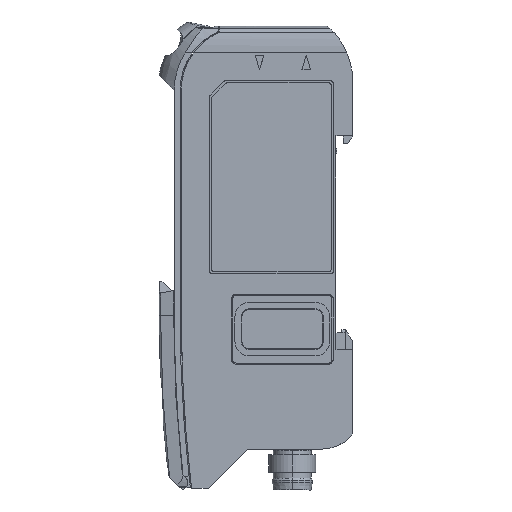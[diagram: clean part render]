
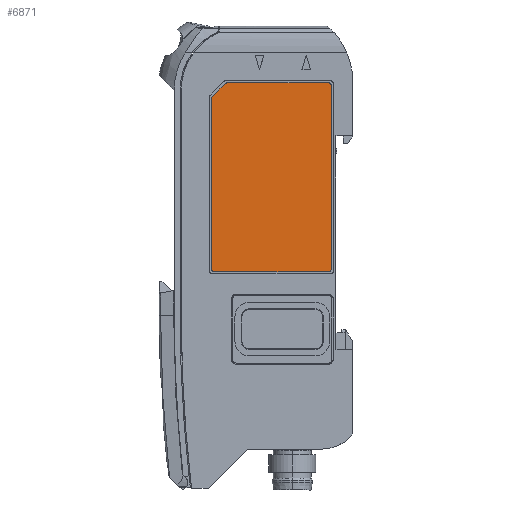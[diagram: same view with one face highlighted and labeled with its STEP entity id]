
A CAD part, left-side view. The second image highlights one B-rep face of the part: STEP entity #6871.
In plain terms, the highlighted planar face has unit normal (-1, 0, 0).
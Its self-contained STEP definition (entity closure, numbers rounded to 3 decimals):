
#315 = DIRECTION ( 'NONE',  ( 0., 0., 1. ) ) ;
#431 = VECTOR ( 'NONE', #17645, 1000. ) ;
#1067 = ORIENTED_EDGE ( 'NONE', *, *, #10451, .F. ) ;
#1258 = AXIS2_PLACEMENT_3D ( 'NONE', #10110, #23023, #13504 ) ;
#1876 = VERTEX_POINT ( 'NONE', #30959 ) ;
#2252 = DIRECTION ( 'NONE',  ( 1., 0., 0. ) ) ;
#3451 = LINE ( 'NONE', #39217, #29650 ) ;
#4851 = AXIS2_PLACEMENT_3D ( 'NONE', #38963, #23011, #35997 ) ;
#5183 = EDGE_CURVE ( 'NONE', #16761, #17562, #39019, .T. ) ;
#5900 = VERTEX_POINT ( 'NONE', #33243 ) ;
#6313 = EDGE_CURVE ( 'NONE', #11715, #9387, #26143, .T. ) ;
#6871 = ADVANCED_FACE ( 'NONE', ( #29623 ), #16257, .T. ) ;
#8096 = DIRECTION ( 'NONE',  ( 0., 0., -1. ) ) ;
#8237 = ORIENTED_EDGE ( 'NONE', *, *, #31973, .F. ) ;
#9387 = VERTEX_POINT ( 'NONE', #24160 ) ;
#10110 = CARTESIAN_POINT ( 'NONE',  ( -10.425, 23.703, -41.597 ) ) ;
#10451 = EDGE_CURVE ( 'NONE', #16761, #31383, #29864, .T. ) ;
#11459 = VERTEX_POINT ( 'NONE', #25951 ) ;
#11715 = VERTEX_POINT ( 'NONE', #32990 ) ;
#12169 = ORIENTED_EDGE ( 'NONE', *, *, #21134, .T. ) ;
#13035 = AXIS2_PLACEMENT_3D ( 'NONE', #27258, #26821, #39771 ) ;
#13101 = DIRECTION ( 'NONE',  ( 0., 0.707, -0.707 ) ) ;
#13128 = CARTESIAN_POINT ( 'NONE',  ( -10.425, 3.703, -41.597 ) ) ;
#13504 = DIRECTION ( 'NONE',  ( 0., 0., 1. ) ) ;
#13685 = CARTESIAN_POINT ( 'NONE',  ( -10.425, 24.057, -12.05 ) ) ;
#14465 = EDGE_CURVE ( 'NONE', #11459, #9387, #23056, .T. ) ;
#14495 = LINE ( 'NONE', #36158, #431 ) ;
#14649 = LINE ( 'NONE', #27614, #35835 ) ;
#14998 = DIRECTION ( 'NONE',  ( 0., 0., -1. ) ) ;
#15070 = CIRCLE ( 'NONE', #13035, 0.5 ) ;
#15665 = CARTESIAN_POINT ( 'NONE',  ( -10.425, 4.203, -41.597 ) ) ;
#15995 = DIRECTION ( 'NONE',  ( 1., 0., 0. ) ) ;
#16257 = PLANE ( 'NONE',  #1258 ) ;
#16464 = EDGE_CURVE ( 'NONE', #1876, #31383, #14495, .T. ) ;
#16761 = VERTEX_POINT ( 'NONE', #13128 ) ;
#16773 = CARTESIAN_POINT ( 'NONE',  ( -10.425, 4.203, -9.697 ) ) ;
#17562 = VERTEX_POINT ( 'NONE', #39946 ) ;
#17645 = DIRECTION ( 'NONE',  ( 0., -1., 0. ) ) ;
#18795 = AXIS2_PLACEMENT_3D ( 'NONE', #27761, #34309, #14998 ) ;
#19592 = CARTESIAN_POINT ( 'NONE',  ( -10.425, 24.203, -12.404 ) ) ;
#19732 = DIRECTION ( 'NONE',  ( 0., 1., 0. ) ) ;
#19804 = ORIENTED_EDGE ( 'NONE', *, *, #16464, .T. ) ;
#19821 = ORIENTED_EDGE ( 'NONE', *, *, #5183, .T. ) ;
#21134 = EDGE_CURVE ( 'NONE', #11459, #25191, #3451, .T. ) ;
#22240 = DIRECTION ( 'NONE',  ( 0., 0., -1. ) ) ;
#23011 = DIRECTION ( 'NONE',  ( 1., 0., 0. ) ) ;
#23023 = DIRECTION ( 'NONE',  ( -1., 0., 0. ) ) ;
#23056 = CIRCLE ( 'NONE', #4851, 0.5 ) ;
#24160 = CARTESIAN_POINT ( 'NONE',  ( -10.425, 21.496, -9.697 ) ) ;
#25191 = VERTEX_POINT ( 'NONE', #13685 ) ;
#25340 = ORIENTED_EDGE ( 'NONE', *, *, #26958, .F. ) ;
#25951 = CARTESIAN_POINT ( 'NONE',  ( -10.425, 21.85, -9.843 ) ) ;
#26143 = LINE ( 'NONE', #16773, #27522 ) ;
#26663 = EDGE_CURVE ( 'NONE', #28681, #5900, #14649, .T. ) ;
#26821 = DIRECTION ( 'NONE',  ( 1., 0., 0. ) ) ;
#26835 = AXIS2_PLACEMENT_3D ( 'NONE', #38294, #15995, #32307 ) ;
#26958 = EDGE_CURVE ( 'NONE', #1876, #5900, #37122, .T. ) ;
#27176 = ORIENTED_EDGE ( 'NONE', *, *, #14465, .F. ) ;
#27258 = CARTESIAN_POINT ( 'NONE',  ( -10.425, 4.203, -10.197 ) ) ;
#27522 = VECTOR ( 'NONE', #19732, 1000. ) ;
#27614 = CARTESIAN_POINT ( 'NONE',  ( -10.425, 24.203, -41.597 ) ) ;
#27761 = CARTESIAN_POINT ( 'NONE',  ( -10.425, 23.703, -41.597 ) ) ;
#28681 = VERTEX_POINT ( 'NONE', #19592 ) ;
#29623 = FACE_OUTER_BOUND ( 'NONE', #29662, .T. ) ;
#29650 = VECTOR ( 'NONE', #13101, 1000. ) ;
#29658 = CARTESIAN_POINT ( 'NONE',  ( -10.425, 3.703, -41.597 ) ) ;
#29662 = EDGE_LOOP ( 'NONE', ( #37196, #25340, #19804, #1067, #19821, #39036, #30106, #27176, #12169, #8237 ) ) ;
#29864 = CIRCLE ( 'NONE', #38724, 0.5 ) ;
#30106 = ORIENTED_EDGE ( 'NONE', *, *, #6313, .T. ) ;
#30959 = CARTESIAN_POINT ( 'NONE',  ( -10.425, 23.703, -42.097 ) ) ;
#31383 = VERTEX_POINT ( 'NONE', #37845 ) ;
#31973 = EDGE_CURVE ( 'NONE', #28681, #25191, #37703, .T. ) ;
#32307 = DIRECTION ( 'NONE',  ( 0., 0., -1. ) ) ;
#32990 = CARTESIAN_POINT ( 'NONE',  ( -10.425, 4.203, -9.697 ) ) ;
#33243 = CARTESIAN_POINT ( 'NONE',  ( -10.425, 24.203, -41.597 ) ) ;
#33888 = EDGE_CURVE ( 'NONE', #11715, #17562, #15070, .T. ) ;
#34309 = DIRECTION ( 'NONE',  ( 1., 0., 0. ) ) ;
#35835 = VECTOR ( 'NONE', #8096, 1000. ) ;
#35997 = DIRECTION ( 'NONE',  ( 0., 0., -1. ) ) ;
#36158 = CARTESIAN_POINT ( 'NONE',  ( -10.425, 4.203, -42.097 ) ) ;
#36968 = VECTOR ( 'NONE', #315, 1000. ) ;
#37122 = CIRCLE ( 'NONE', #18795, 0.5 ) ;
#37196 = ORIENTED_EDGE ( 'NONE', *, *, #26663, .T. ) ;
#37703 = CIRCLE ( 'NONE', #26835, 0.5 ) ;
#37845 = CARTESIAN_POINT ( 'NONE',  ( -10.425, 4.203, -42.097 ) ) ;
#38294 = CARTESIAN_POINT ( 'NONE',  ( -10.425, 23.703, -12.404 ) ) ;
#38724 = AXIS2_PLACEMENT_3D ( 'NONE', #15665, #2252, #22240 ) ;
#38963 = CARTESIAN_POINT ( 'NONE',  ( -10.425, 21.496, -10.197 ) ) ;
#39019 = LINE ( 'NONE', #29658, #36968 ) ;
#39036 = ORIENTED_EDGE ( 'NONE', *, *, #33888, .F. ) ;
#39217 = CARTESIAN_POINT ( 'NONE',  ( -10.425, 24.203, -12.197 ) ) ;
#39771 = DIRECTION ( 'NONE',  ( 0., 0., -1. ) ) ;
#39946 = CARTESIAN_POINT ( 'NONE',  ( -10.425, 3.703, -10.197 ) ) ;
